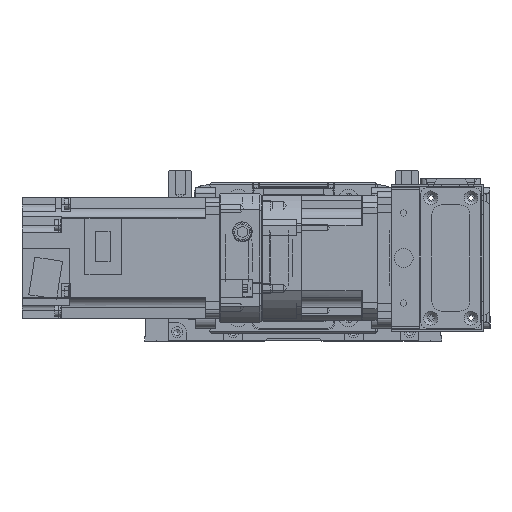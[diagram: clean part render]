
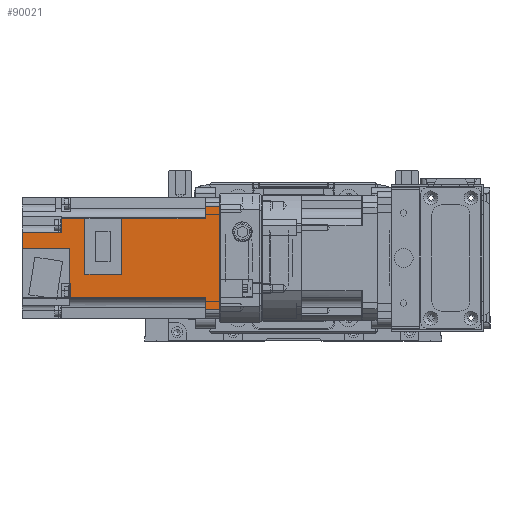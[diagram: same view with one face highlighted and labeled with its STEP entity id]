
A CAD part, front view. The second image highlights one B-rep face of the part: STEP entity #90021.
In plain terms, the highlighted planar face has unit normal (0, -1, 0).
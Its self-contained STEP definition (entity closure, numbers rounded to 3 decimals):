
#9530=FACE_OUTER_BOUND('',#14719,.T.);
#14719=EDGE_LOOP('',(#73128,#73129,#73130,#73131,#73132,#73133,#73134,#73135,
#73136,#73137,#73138,#73139,#73140,#73141,#73142,#73143,#73144,#73145,#73146,
#73147));
#21665=LINE('',#145205,#31294);
#21696=LINE('',#145325,#31325);
#21699=LINE('',#145336,#31328);
#21739=LINE('',#145451,#31368);
#21800=LINE('',#145661,#31429);
#21801=LINE('',#145666,#31430);
#21802=LINE('',#145668,#31431);
#21803=LINE('',#145669,#31432);
#21804=LINE('',#145671,#31433);
#21805=LINE('',#145673,#31434);
#21806=LINE('',#145675,#31435);
#21807=LINE('',#145677,#31436);
#21808=LINE('',#145679,#31437);
#21809=LINE('',#145681,#31438);
#21810=LINE('',#145683,#31439);
#21811=LINE('',#145685,#31440);
#21812=LINE('',#145686,#31441);
#21813=LINE('',#145688,#31442);
#21814=LINE('',#145690,#31443);
#21815=LINE('',#145691,#31444);
#31294=VECTOR('',#115037,51.);
#31325=VECTOR('',#115140,3.41);
#31328=VECTOR('',#115149,2.444);
#31368=VECTOR('',#115251,7.8);
#31429=VECTOR('',#115486,5.941);
#31430=VECTOR('',#115493,67.3);
#31431=VECTOR('',#115496,0.905);
#31432=VECTOR('',#115497,7.);
#31433=VECTOR('',#115498,7.);
#31434=VECTOR('',#115499,5.941);
#31435=VECTOR('',#115500,41.6);
#31436=VECTOR('',#115501,27.559);
#31437=VECTOR('',#115502,18.35);
#31438=VECTOR('',#115503,27.559);
#31439=VECTOR('',#115504,11.85);
#31440=VECTOR('',#115505,7.059);
#31441=VECTOR('',#115506,19.5);
#31442=VECTOR('',#115507,23.5);
#31443=VECTOR('',#115508,17.5);
#31444=VECTOR('',#115509,0.5);
#41177=VERTEX_POINT('',#145202);
#41178=VERTEX_POINT('',#145204);
#41228=VERTEX_POINT('',#145319);
#41230=VERTEX_POINT('',#145322);
#41231=VERTEX_POINT('',#145324);
#41236=VERTEX_POINT('',#145334);
#41279=VERTEX_POINT('',#145448);
#41280=VERTEX_POINT('',#145450);
#41341=VERTEX_POINT('',#145658);
#41342=VERTEX_POINT('',#145660);
#41344=VERTEX_POINT('',#145670);
#41345=VERTEX_POINT('',#145672);
#41346=VERTEX_POINT('',#145674);
#41347=VERTEX_POINT('',#145676);
#41348=VERTEX_POINT('',#145678);
#41349=VERTEX_POINT('',#145680);
#41350=VERTEX_POINT('',#145682);
#41351=VERTEX_POINT('',#145684);
#41352=VERTEX_POINT('',#145687);
#41353=VERTEX_POINT('',#145689);
#52330=EDGE_CURVE('',#41177,#41178,#21665,.T.);
#52389=EDGE_CURVE('',#41230,#41231,#21696,.T.);
#52395=EDGE_CURVE('',#41236,#41228,#21699,.T.);
#52453=EDGE_CURVE('',#41279,#41280,#21739,.T.);
#52557=EDGE_CURVE('',#41342,#41341,#21800,.T.);
#52560=EDGE_CURVE('',#41342,#41236,#21801,.T.);
#52561=EDGE_CURVE('',#41228,#41230,#21802,.T.);
#52562=EDGE_CURVE('',#41341,#41178,#21803,.T.);
#52563=EDGE_CURVE('',#41177,#41344,#21804,.T.);
#52564=EDGE_CURVE('',#41345,#41344,#21805,.T.);
#52565=EDGE_CURVE('',#41345,#41346,#21806,.T.);
#52566=EDGE_CURVE('',#41346,#41347,#21807,.T.);
#52567=EDGE_CURVE('',#41347,#41348,#21808,.T.);
#52568=EDGE_CURVE('',#41348,#41349,#21809,.T.);
#52569=EDGE_CURVE('',#41350,#41349,#21810,.T.);
#52570=EDGE_CURVE('',#41351,#41350,#21811,.T.);
#52571=EDGE_CURVE('',#41280,#41351,#21812,.T.);
#52572=EDGE_CURVE('',#41279,#41352,#21813,.T.);
#52573=EDGE_CURVE('',#41353,#41352,#21814,.T.);
#52574=EDGE_CURVE('',#41231,#41353,#21815,.T.);
#73128=ORIENTED_EDGE('',*,*,#52561,.F.);
#73129=ORIENTED_EDGE('',*,*,#52395,.F.);
#73130=ORIENTED_EDGE('',*,*,#52560,.F.);
#73131=ORIENTED_EDGE('',*,*,#52557,.T.);
#73132=ORIENTED_EDGE('',*,*,#52562,.T.);
#73133=ORIENTED_EDGE('',*,*,#52330,.F.);
#73134=ORIENTED_EDGE('',*,*,#52563,.T.);
#73135=ORIENTED_EDGE('',*,*,#52564,.F.);
#73136=ORIENTED_EDGE('',*,*,#52565,.T.);
#73137=ORIENTED_EDGE('',*,*,#52566,.T.);
#73138=ORIENTED_EDGE('',*,*,#52567,.T.);
#73139=ORIENTED_EDGE('',*,*,#52568,.T.);
#73140=ORIENTED_EDGE('',*,*,#52569,.F.);
#73141=ORIENTED_EDGE('',*,*,#52570,.F.);
#73142=ORIENTED_EDGE('',*,*,#52571,.F.);
#73143=ORIENTED_EDGE('',*,*,#52453,.F.);
#73144=ORIENTED_EDGE('',*,*,#52572,.T.);
#73145=ORIENTED_EDGE('',*,*,#52573,.F.);
#73146=ORIENTED_EDGE('',*,*,#52574,.F.);
#73147=ORIENTED_EDGE('',*,*,#52389,.F.);
#85611=PLANE('',#97849);
#90021=ADVANCED_FACE('',(#9530),#85611,.F.);
#97849=AXIS2_PLACEMENT_3D('',#145667,#115494,#115495);
#115037=DIRECTION('',(1.,0.,0.));
#115140=DIRECTION('',(-1.,0.,0.));
#115149=DIRECTION('',(-1.,0.,0.));
#115251=DIRECTION('',(-1.,0.,0.));
#115486=DIRECTION('',(1.,0.,0.));
#115493=DIRECTION('',(0.,0.,-1.));
#115494=DIRECTION('center_axis',(0.,1.,0.));
#115495=DIRECTION('ref_axis',(-1.,0.,0.));
#115496=DIRECTION('',(-1.,0.,0.));
#115497=DIRECTION('',(0.,0.,1.));
#115498=DIRECTION('',(0.,0.,-1.));
#115499=DIRECTION('',(-1.,0.,0.));
#115500=DIRECTION('',(0.,0.,-1.));
#115501=DIRECTION('',(1.,0.,0.));
#115502=DIRECTION('',(0.,0.,-1.));
#115503=DIRECTION('',(-1.,0.,0.));
#115504=DIRECTION('',(0.,0.,1.));
#115505=DIRECTION('',(-1.,0.,0.));
#115506=DIRECTION('',(0.,0.,1.));
#115507=DIRECTION('',(0.,0.,1.));
#115508=DIRECTION('',(-1.,0.,0.));
#115509=DIRECTION('',(0.,0.,-1.));
#145202=CARTESIAN_POINT('',(-25.5,-30.,0.));
#145204=CARTESIAN_POINT('',(25.5,-30.,0.));
#145205=CARTESIAN_POINT('',(-25.5,-30.,0.));
#145319=CARTESIAN_POINT('',(17.115,-30.,-74.3));
#145322=CARTESIAN_POINT('',(16.21,-30.,-74.3));
#145324=CARTESIAN_POINT('',(12.8,-30.,-74.3));
#145325=CARTESIAN_POINT('',(16.21,-30.,-74.3));
#145334=CARTESIAN_POINT('',(19.559,-30.,-74.3));
#145336=CARTESIAN_POINT('',(19.559,-30.,-74.3));
#145448=CARTESIAN_POINT('',(-4.7,-30.,-98.3));
#145450=CARTESIAN_POINT('',(-12.5,-30.,-98.3));
#145451=CARTESIAN_POINT('',(-4.7,-30.,-98.3));
#145658=CARTESIAN_POINT('',(25.5,-30.,-7.));
#145660=CARTESIAN_POINT('',(19.559,-30.,-7.));
#145661=CARTESIAN_POINT('',(19.559,-30.,-7.));
#145666=CARTESIAN_POINT('',(19.559,-30.,-7.));
#145667=CARTESIAN_POINT('Origin',(0.,-30.,-3.9));
#145668=CARTESIAN_POINT('',(17.115,-30.,-74.3));
#145669=CARTESIAN_POINT('',(25.5,-30.,-7.));
#145670=CARTESIAN_POINT('',(-25.5,-30.,-7.));
#145671=CARTESIAN_POINT('',(-25.5,-30.,0.));
#145672=CARTESIAN_POINT('',(-19.559,-30.,-7.));
#145673=CARTESIAN_POINT('',(-19.559,-30.,-7.));
#145674=CARTESIAN_POINT('',(-19.559,-30.,-48.6));
#145675=CARTESIAN_POINT('',(-19.559,-30.,-7.));
#145676=CARTESIAN_POINT('',(8.,-30.,-48.6));
#145677=CARTESIAN_POINT('',(-19.559,-30.,-48.6));
#145678=CARTESIAN_POINT('',(8.,-30.,-66.95));
#145679=CARTESIAN_POINT('',(8.,-30.,-48.6));
#145680=CARTESIAN_POINT('',(-19.559,-30.,-66.95));
#145681=CARTESIAN_POINT('',(8.,-30.,-66.95));
#145682=CARTESIAN_POINT('',(-19.559,-30.,-78.8));
#145683=CARTESIAN_POINT('',(-19.559,-30.,-78.8));
#145684=CARTESIAN_POINT('',(-12.5,-30.,-78.8));
#145685=CARTESIAN_POINT('',(-12.5,-30.,-78.8));
#145686=CARTESIAN_POINT('',(-12.5,-30.,-98.3));
#145687=CARTESIAN_POINT('',(-4.7,-30.,-74.8));
#145688=CARTESIAN_POINT('',(-4.7,-30.,-98.3));
#145689=CARTESIAN_POINT('',(12.8,-30.,-74.8));
#145690=CARTESIAN_POINT('',(12.8,-30.,-74.8));
#145691=CARTESIAN_POINT('',(12.8,-30.,-74.3));
